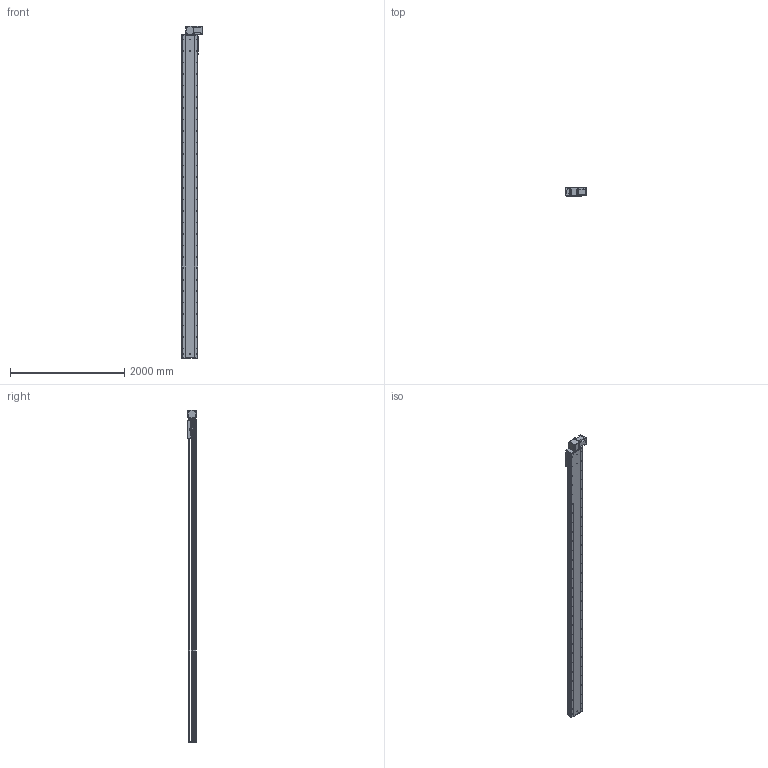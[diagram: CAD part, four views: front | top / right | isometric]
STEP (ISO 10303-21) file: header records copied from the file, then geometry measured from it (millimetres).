
FILE_DESCRIPTION (( 'STEP AP214' ), '1' );
FILE_NAME ('RTB28S-XX-5200-BL-M100-XX-C4.STEP', '2025-12-22T02:54:05', ( '' ), ( '' ), 'SwSTEP 2.0', 'SolidWorks 2018', '' );
FILE_SCHEMA (( 'AUTOMOTIVE_DESIGN' ));
Length unit declared in the file: millimetre
Products named in the file (4): RTB28S-GY-011^RTB28S-XX-XX-BL-M100-XX-C4; RTB28S-XX-5200-BL-M100-XX-C4; RTB28S-GY-008^RTB28S-XX-XX-BL-M100-XX-C4; RTB28S-GY-004^RTB28S-XX-XX-BL-M100-XX-C4
Assembly tree (3 placements, depth 2):
  RTB28S-XX-5200-BL-M100-XX-C4
    RTB28S-GY-011^RTB28S-XX-XX-BL-M100-XX-C4
    RTB28S-GY-004^RTB28S-XX-XX-BL-M100-XX-C4
    RTB28S-GY-008^RTB28S-XX-XX-BL-M100-XX-C4
Bounding box: 380.7 x 145 x 5807 mm (x, y, z)
Volume: 95754263.8 mm3; surface area: 8830459.4 mm2
Topology: 3 solids, 4 shells, 998 faces, 2718 edges, 1748 vertices
Faces by surface type: cylinder 527, plane 387, cone 80, torus 4
Entity records: 39719 total; most frequent: CARTESIAN_POINT 8152, DIRECTION 5808, ORIENTED_EDGE 5372, EDGE_CURVE 2686, AXIS2_PLACEMENT_3D 2184, VERTEX_POINT 1748, LINE 1440, VECTOR 1440
